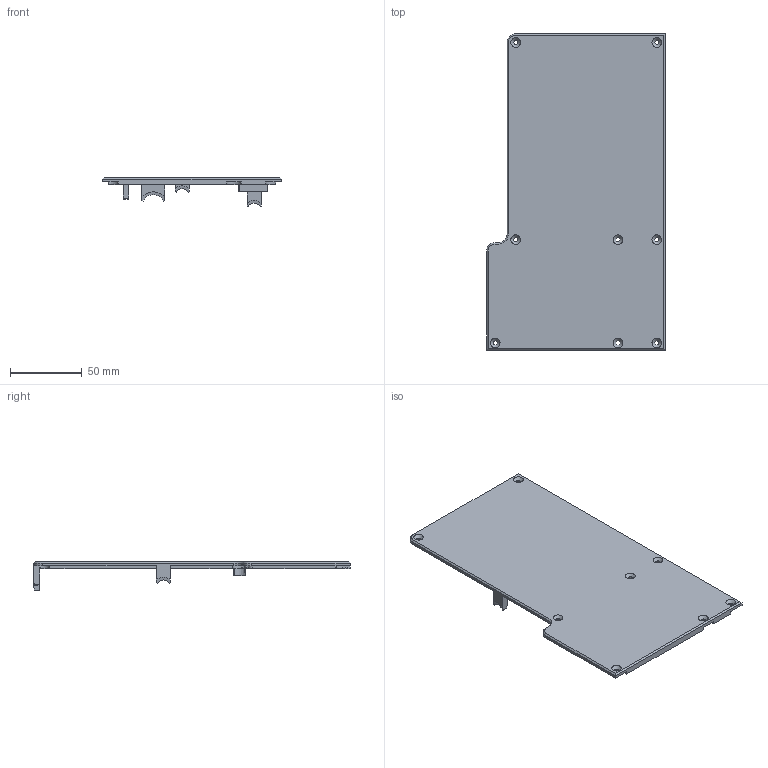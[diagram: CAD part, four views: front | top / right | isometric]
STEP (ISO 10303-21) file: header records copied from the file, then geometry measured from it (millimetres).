
FILE_DESCRIPTION( ( '' ), ' ' );
FILE_NAME( '/vol/tmp/translate-17964685896266287345/5da49d879762371609e2d60b.step', '2019-10-14T16:08:40', ( '' ), ( '' ), ' ', ' ', ' ' );
FILE_SCHEMA( ( 'AUTOMOTIVE_DESIGN { 1 0 10303 214 1 1 1 1 }' ) );
Length unit declared in the file: metre
Products named in the file (1): Part 4
Bounding box: 124.25 x 219.68 x 20.05 mm (x, y, z)
Volume: 121235 mm3; surface area: 55540.3 mm2
Topology: 1 solids, 1 shells, 143 faces, 407 edges, 266 vertices
Faces by surface type: plane 78, cone 31, cylinder 24, bspline 10
Full cylindrical faces by diameter (mm): 3.1 x8
Entity records: 6639 total; most frequent: CARTESIAN_POINT 1952, ORIENTED_EDGE 766, DIRECTION 667, EDGE_CURVE 383, VERTEX_POINT 258, AXIS2_PLACEMENT_3D 227, LINE 213, VECTOR 213
